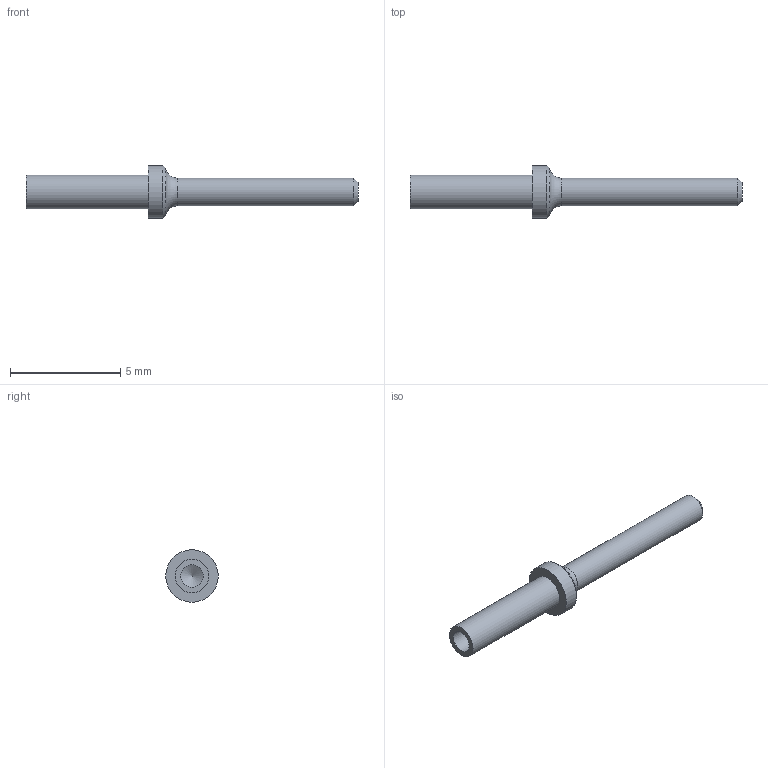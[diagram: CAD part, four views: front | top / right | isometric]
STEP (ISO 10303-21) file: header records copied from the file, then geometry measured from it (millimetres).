
FILE_DESCRIPTION(/* description */ (''),/* implementation_level */ '2;1');
FILE_NAME(/* name */ 'Z:\STEP folder\120-1134-05.ipt.stp',/* time_stamp */ '2016-12-07T10:27:21+00:00',/* author */ ('Paul Karlsons'),/* organization */ (''),/* preprocessor_version */ 'ST-DEVELOPER v15.2',/* originating_system */ 'Autodesk Inventor 2014',/* authorisation */ '');
FILE_SCHEMA (('AUTOMOTIVE_DESIGN { 1 0 10303 214 3 1 1 }'));
Length unit declared in the file: millimetre
Products named in the file (1): 120-1134-05
Bounding box: 15.09 x 2.39 x 2.39 mm (x, y, z)
Volume: 23.3 mm3; surface area: 80.4 mm2
Topology: 1 solids, 1 shells, 11 faces, 20 edges, 12 vertices
Faces by surface type: cylinder 4, cone 3, plane 3, torus 1
Full cylindrical faces by diameter (mm): 1.016 x1, 1.27 x1, 1.524 x1, 2.388 x1
Entity records: 235 total; most frequent: DIRECTION 44, CARTESIAN_POINT 32, AXIS2_PLACEMENT_3D 22, EDGE_LOOP 20, ORIENTED_EDGE 20, ADVANCED_FACE 11, FACE_BOUND 10, FACE_OUTER_BOUND 10
